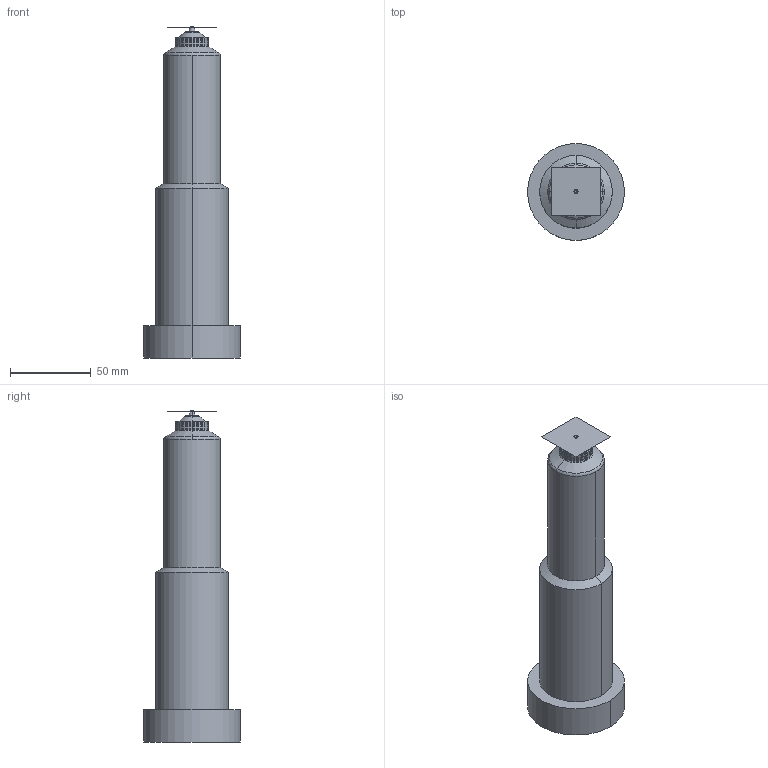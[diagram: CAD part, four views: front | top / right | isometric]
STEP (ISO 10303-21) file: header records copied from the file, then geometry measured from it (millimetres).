
FILE_DESCRIPTION (( 'STEP AP214' ), '1' );
FILE_NAME ('12EX16-03-205-VTW.STEP', '2021-12-20T12:58:16', ( '' ), ( '' ), 'SwSTEP 2.0', 'SolidWorks 2018', '' );
FILE_SCHEMA (( 'AUTOMOTIVE_DESIGN' ));
Length unit declared in the file: millimetre
Products named in the file (3): cutout_12EX16-03-205-VTW; 12EX16-03-205-VTW; nozzle_12EX16-03-205-VTW
Assembly tree (2 placements, depth 2):
  12EX16-03-205-VTW
    nozzle_12EX16-03-205-VTW
    cutout_12EX16-03-205-VTW
Bounding box: 60 x 60 x 205.65 mm (x, y, z)
Volume: 277925.3 mm3; surface area: 92889 mm2
Topology: 1 solids, 5 shells, 415 faces, 1105 edges, 676 vertices
Faces by surface type: cylinder 149, plane 137, torus 67, cone 52, bspline 6, sphere 4
Entity records: 17245 total; most frequent: CARTESIAN_POINT 6531, DIRECTION 2373, ORIENTED_EDGE 2202, EDGE_CURVE 1103, AXIS2_PLACEMENT_3D 949, VERTEX_POINT 676, CIRCLE 534, LINE 475
